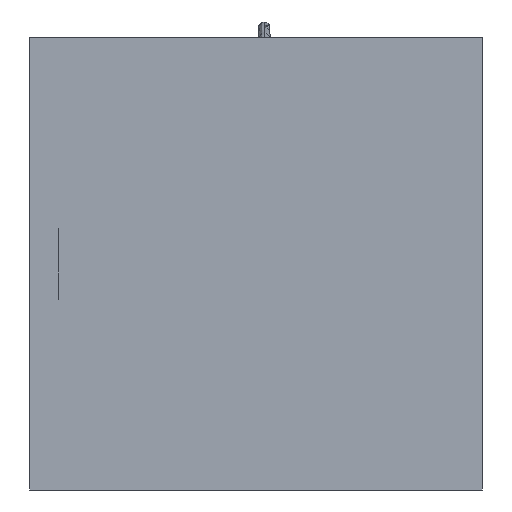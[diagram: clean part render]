
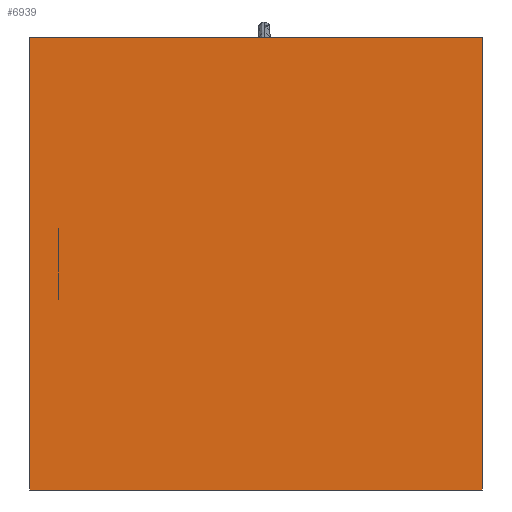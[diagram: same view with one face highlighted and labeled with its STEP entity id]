
A CAD part, left-side view. The second image highlights one B-rep face of the part: STEP entity #6939.
In plain terms, the highlighted planar face has unit normal (-1, 0, 0).
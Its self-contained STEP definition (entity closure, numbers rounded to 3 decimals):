
#348 = VERTEX_POINT ( 'NONE', #1668 ) ;
#560 = VECTOR ( 'NONE', #7092, 1000. ) ;
#621 = VERTEX_POINT ( 'NONE', #3793 ) ;
#903 = LINE ( 'NONE', #3510, #2338 ) ;
#1265 = LINE ( 'NONE', #2640, #7655 ) ;
#1595 = ORIENTED_EDGE ( 'NONE', *, *, #4949, .F. ) ;
#1668 = CARTESIAN_POINT ( 'NONE',  ( -68.199, 0., 15.05 ) ) ;
#1834 = AXIS2_PLACEMENT_3D ( 'NONE', #7222, #3821, #2545 ) ;
#2100 = CARTESIAN_POINT ( 'NONE',  ( -68.199, 30.099, -15.05 ) ) ;
#2132 = EDGE_LOOP ( 'NONE', ( #2184, #3202, #1595, #4092 ) ) ;
#2184 = ORIENTED_EDGE ( 'NONE', *, *, #4492, .T. ) ;
#2338 = VECTOR ( 'NONE', #4150, 1000. ) ;
#2545 = DIRECTION ( 'NONE',  ( 0., 0., -1. ) ) ;
#2640 = CARTESIAN_POINT ( 'NONE',  ( -68.199, 30.099, -15.05 ) ) ;
#2991 = LINE ( 'NONE', #6614, #6964 ) ;
#3202 = ORIENTED_EDGE ( 'NONE', *, *, #4330, .F. ) ;
#3347 = PLANE ( 'NONE',  #1834 ) ;
#3510 = CARTESIAN_POINT ( 'NONE',  ( -68.199, 0., -15.05 ) ) ;
#3793 = CARTESIAN_POINT ( 'NONE',  ( -68.199, 30.099, 15.05 ) ) ;
#3821 = DIRECTION ( 'NONE',  ( 1., 0., 0. ) ) ;
#4092 = ORIENTED_EDGE ( 'NONE', *, *, #4240, .T. ) ;
#4150 = DIRECTION ( 'NONE',  ( 0., 0., 1. ) ) ;
#4240 = EDGE_CURVE ( 'NONE', #4296, #5053, #5774, .T. ) ;
#4296 = VERTEX_POINT ( 'NONE', #2100 ) ;
#4330 = EDGE_CURVE ( 'NONE', #621, #348, #2991, .T. ) ;
#4492 = EDGE_CURVE ( 'NONE', #5053, #348, #903, .T. ) ;
#4506 = CARTESIAN_POINT ( 'NONE',  ( -68.199, 30.099, -15.05 ) ) ;
#4627 = FACE_OUTER_BOUND ( 'NONE', #2132, .T. ) ;
#4949 = EDGE_CURVE ( 'NONE', #4296, #621, #1265, .T. ) ;
#5053 = VERTEX_POINT ( 'NONE', #6379 ) ;
#5774 = LINE ( 'NONE', #4506, #560 ) ;
#6379 = CARTESIAN_POINT ( 'NONE',  ( -68.199, 0., -15.05 ) ) ;
#6614 = CARTESIAN_POINT ( 'NONE',  ( -68.199, 30.099, 15.05 ) ) ;
#6939 = ADVANCED_FACE ( 'NONE', ( #4627 ), #3347, .F. ) ;
#6964 = VECTOR ( 'NONE', #7300, 1000. ) ;
#7092 = DIRECTION ( 'NONE',  ( 0., -1., 0. ) ) ;
#7107 = DIRECTION ( 'NONE',  ( 0., 0., 1. ) ) ;
#7222 = CARTESIAN_POINT ( 'NONE',  ( -68.199, 30.099, -15.05 ) ) ;
#7300 = DIRECTION ( 'NONE',  ( 0., -1., 0. ) ) ;
#7655 = VECTOR ( 'NONE', #7107, 1000. ) ;
